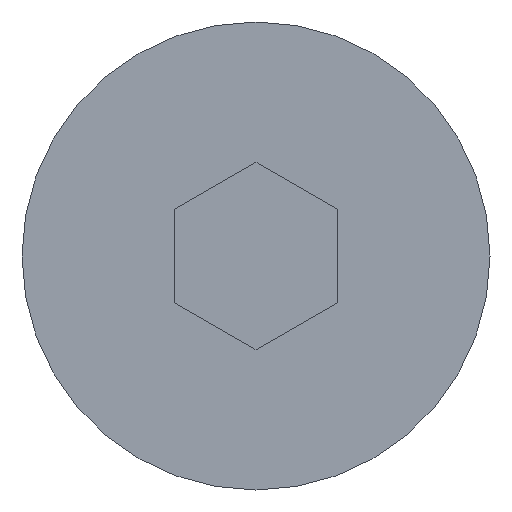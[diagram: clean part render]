
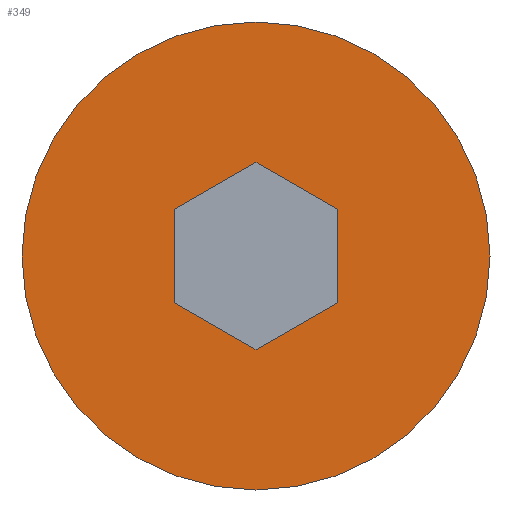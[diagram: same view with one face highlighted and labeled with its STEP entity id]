
A CAD part, left-side view. The second image highlights one B-rep face of the part: STEP entity #349.
In plain terms, the highlighted planar face has unit normal (-1, 0, 0).
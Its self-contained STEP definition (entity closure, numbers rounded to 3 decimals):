
#2 = VERTEX_POINT ( 'NONE', #473 ) ;
#3 = ORIENTED_EDGE ( 'NONE', *, *, #107, .F. ) ;
#5 = CARTESIAN_POINT ( 'NONE',  ( 0., 0., 0. ) ) ;
#20 = CARTESIAN_POINT ( 'NONE',  ( 0., 0., 5. ) ) ;
#21 = VERTEX_POINT ( 'NONE', #451 ) ;
#22 = DIRECTION ( 'NONE',  ( 0., 0., -1. ) ) ;
#25 = CARTESIAN_POINT ( 'NONE',  ( 0., 0., -2. ) ) ;
#32 = ORIENTED_EDGE ( 'NONE', *, *, #415, .F. ) ;
#38 = EDGE_LOOP ( 'NONE', ( #91, #96 ) ) ;
#39 = CARTESIAN_POINT ( 'NONE',  ( 0., 1.732, 1. ) ) ;
#43 = AXIS2_PLACEMENT_3D ( 'NONE', #411, #293, #154 ) ;
#51 = CARTESIAN_POINT ( 'NONE',  ( 0., -1.732, 1. ) ) ;
#60 = CIRCLE ( 'NONE', #84, 5. ) ;
#67 = CIRCLE ( 'NONE', #179, 5. ) ;
#83 = DIRECTION ( 'NONE',  ( 0., 0., 1. ) ) ;
#84 = AXIS2_PLACEMENT_3D ( 'NONE', #5, #236, #362 ) ;
#91 = ORIENTED_EDGE ( 'NONE', *, *, #221, .T. ) ;
#96 = ORIENTED_EDGE ( 'NONE', *, *, #467, .T. ) ;
#107 = EDGE_CURVE ( 'NONE', #311, #315, #413, .T. ) ;
#113 = LINE ( 'NONE', #503, #434 ) ;
#117 = PLANE ( 'NONE',  #43 ) ;
#119 = CARTESIAN_POINT ( 'NONE',  ( 0., -1.732, -1. ) ) ;
#154 = DIRECTION ( 'NONE',  ( 0., 0., -1. ) ) ;
#166 = VECTOR ( 'NONE', #224, 1000. ) ;
#178 = CARTESIAN_POINT ( 'NONE',  ( 0., -1.732, -1. ) ) ;
#179 = AXIS2_PLACEMENT_3D ( 'NONE', #196, #325, #83 ) ;
#196 = CARTESIAN_POINT ( 'NONE',  ( 0., 0., 0. ) ) ;
#210 = EDGE_CURVE ( 'NONE', #2, #227, #499, .T. ) ;
#211 = DIRECTION ( 'NONE',  ( 0., 0.866, 0.5 ) ) ;
#212 = EDGE_CURVE ( 'NONE', #21, #264, #377, .T. ) ;
#221 = EDGE_CURVE ( 'NONE', #402, #352, #60, .T. ) ;
#224 = DIRECTION ( 'NONE',  ( 0., 0., 1. ) ) ;
#227 = VERTEX_POINT ( 'NONE', #39 ) ;
#230 = VECTOR ( 'NONE', #22, 1000. ) ;
#236 = DIRECTION ( 'NONE',  ( -1., 0., 0. ) ) ;
#258 = VECTOR ( 'NONE', #361, 1000. ) ;
#264 = VERTEX_POINT ( 'NONE', #25 ) ;
#272 = EDGE_CURVE ( 'NONE', #227, #21, #364, .T. ) ;
#281 = EDGE_CURVE ( 'NONE', #264, #311, #113, .T. ) ;
#293 = DIRECTION ( 'NONE',  ( 1., 0., 0. ) ) ;
#296 = EDGE_LOOP ( 'NONE', ( #399, #32, #3, #441, #472, #417 ) ) ;
#304 = CARTESIAN_POINT ( 'NONE',  ( 0., 1.732, 1. ) ) ;
#311 = VERTEX_POINT ( 'NONE', #119 ) ;
#315 = VERTEX_POINT ( 'NONE', #51 ) ;
#320 = FACE_BOUND ( 'NONE', #296, .T. ) ;
#325 = DIRECTION ( 'NONE',  ( -1., 0., 0. ) ) ;
#336 = CARTESIAN_POINT ( 'NONE',  ( 0., -1.732, 1. ) ) ;
#349 = ADVANCED_FACE ( 'NONE', ( #320, #436 ), #117, .F. ) ;
#352 = VERTEX_POINT ( 'NONE', #445 ) ;
#361 = DIRECTION ( 'NONE',  ( 0., -0.866, -0.5 ) ) ;
#362 = DIRECTION ( 'NONE',  ( 0., 0., 1. ) ) ;
#364 = LINE ( 'NONE', #304, #230 ) ;
#372 = VECTOR ( 'NONE', #211, 1000. ) ;
#377 = LINE ( 'NONE', #403, #258 ) ;
#399 = ORIENTED_EDGE ( 'NONE', *, *, #210, .F. ) ;
#402 = VERTEX_POINT ( 'NONE', #20 ) ;
#403 = CARTESIAN_POINT ( 'NONE',  ( 0., 1.732, -1. ) ) ;
#408 = DIRECTION ( 'NONE',  ( 0., -0.866, 0.5 ) ) ;
#411 = CARTESIAN_POINT ( 'NONE',  ( 0., 0., 0. ) ) ;
#413 = LINE ( 'NONE', #178, #166 ) ;
#415 = EDGE_CURVE ( 'NONE', #315, #2, #475, .T. ) ;
#417 = ORIENTED_EDGE ( 'NONE', *, *, #272, .F. ) ;
#434 = VECTOR ( 'NONE', #408, 1000. ) ;
#436 = FACE_OUTER_BOUND ( 'NONE', #38, .T. ) ;
#440 = CARTESIAN_POINT ( 'NONE',  ( 0., 0., 2. ) ) ;
#441 = ORIENTED_EDGE ( 'NONE', *, *, #281, .F. ) ;
#445 = CARTESIAN_POINT ( 'NONE',  ( 0., 0., -5. ) ) ;
#451 = CARTESIAN_POINT ( 'NONE',  ( 0., 1.732, -1. ) ) ;
#467 = EDGE_CURVE ( 'NONE', #352, #402, #67, .T. ) ;
#470 = VECTOR ( 'NONE', #478, 1000. ) ;
#472 = ORIENTED_EDGE ( 'NONE', *, *, #212, .F. ) ;
#473 = CARTESIAN_POINT ( 'NONE',  ( 0., 0., 2. ) ) ;
#475 = LINE ( 'NONE', #336, #372 ) ;
#478 = DIRECTION ( 'NONE',  ( 0., 0.866, -0.5 ) ) ;
#499 = LINE ( 'NONE', #440, #470 ) ;
#503 = CARTESIAN_POINT ( 'NONE',  ( 0., 0., -2. ) ) ;
